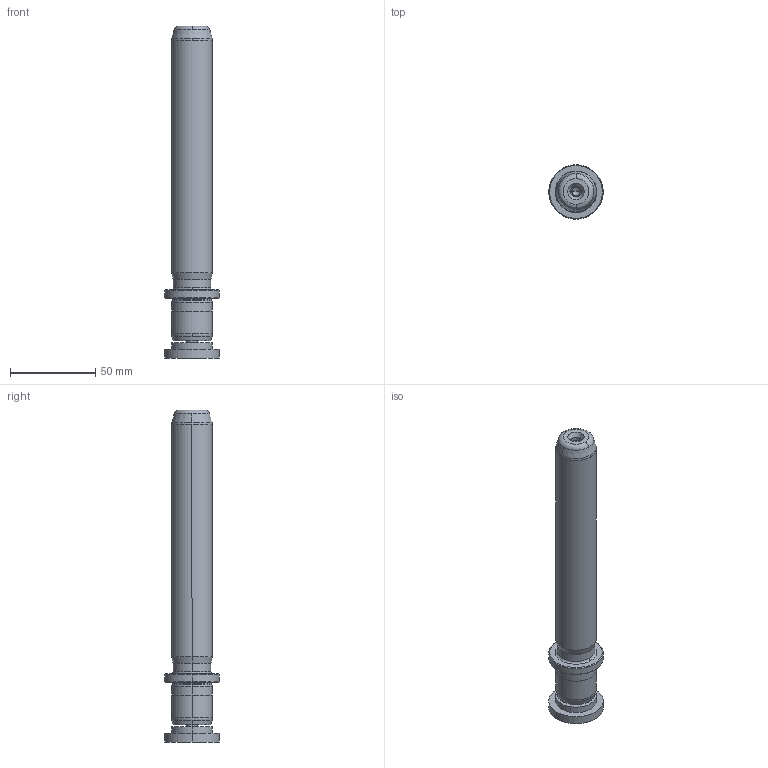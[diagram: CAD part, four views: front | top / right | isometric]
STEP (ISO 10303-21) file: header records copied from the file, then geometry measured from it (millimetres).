
FILE_DESCRIPTION((''),'2;1');
FILE_NAME('P22_024_160.stp','2009-02-02T15:30:50',(''),(''),'Mechanical Desktop 2009','Mechanical Desktop 2009',', , ');
FILE_SCHEMA(('CONFIG_CONTROL_DESIGN'));
Length unit declared in the file: millimetre
Products named in the file (2): Product; blmdl1
Assembly tree (1 placements, depth 2):
  Product
    blmdl1
Bounding box: 32 x 32 x 195 mm (x, y, z)
Volume: 88840.4 mm3; surface area: 19284.7 mm2
Topology: 3 solids, 3 shells, 99 faces, 237 edges, 149 vertices
Faces by surface type: cylinder 32, cone 28, plane 19, torus 10, bspline 10
Entity records: 3419 total; most frequent: CARTESIAN_POINT 923, DIRECTION 570, ORIENTED_EDGE 466, AXIS2_PLACEMENT_3D 246, EDGE_CURVE 233, CIRCLE 155, VERTEX_POINT 149, EDGE_LOOP 110
